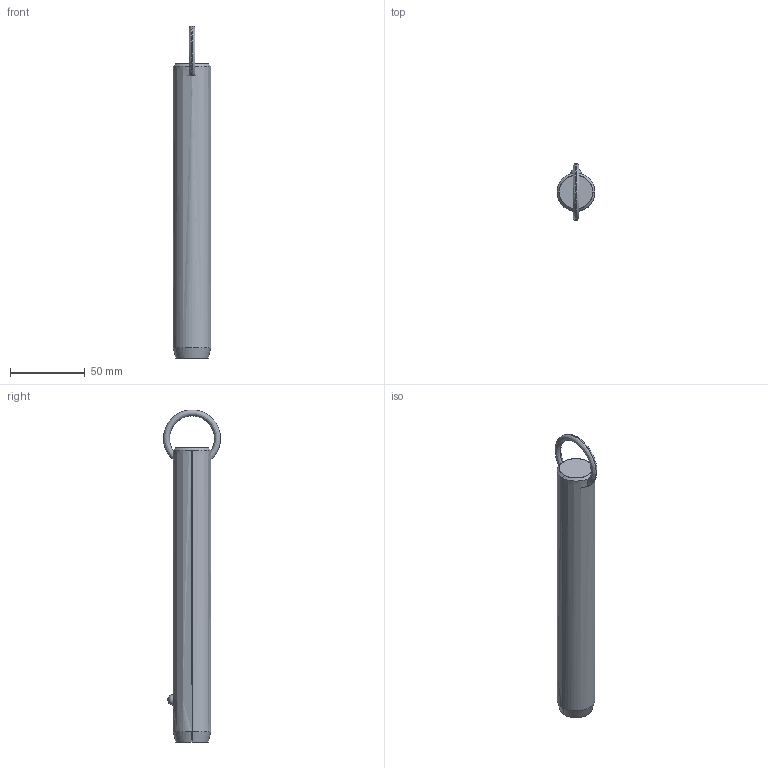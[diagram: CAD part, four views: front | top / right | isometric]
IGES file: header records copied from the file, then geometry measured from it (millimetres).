
Start section: SolidWorks IGES file using analytic representation for surfaces
Global section: file name: C:\Users\liam_\OneDrive\Documents\WORK\Work for WixRoyd\Job Files\J-00019 - Matt Davis CAD Checking\04. CAD Drawings\automotion20190605\P1250.2_v2\P1250.2_v2_20190729_IGES\P1250.100-600.igs; native system: SolidWorks 2017; preprocessor: SolidWorks 2017; author: liam_; date: 190730.174629; units: millimetre
Bounding box: 25.4 x 38.1 x 222.18 mm (x, y, z)
Surface area: 17477.3 mm2 (no closed solid volume)
Topology: 0 solids, 0 shells, 12 faces, 298 edges, 296 vertices
Faces by surface type: revolution 8, bspline 4
